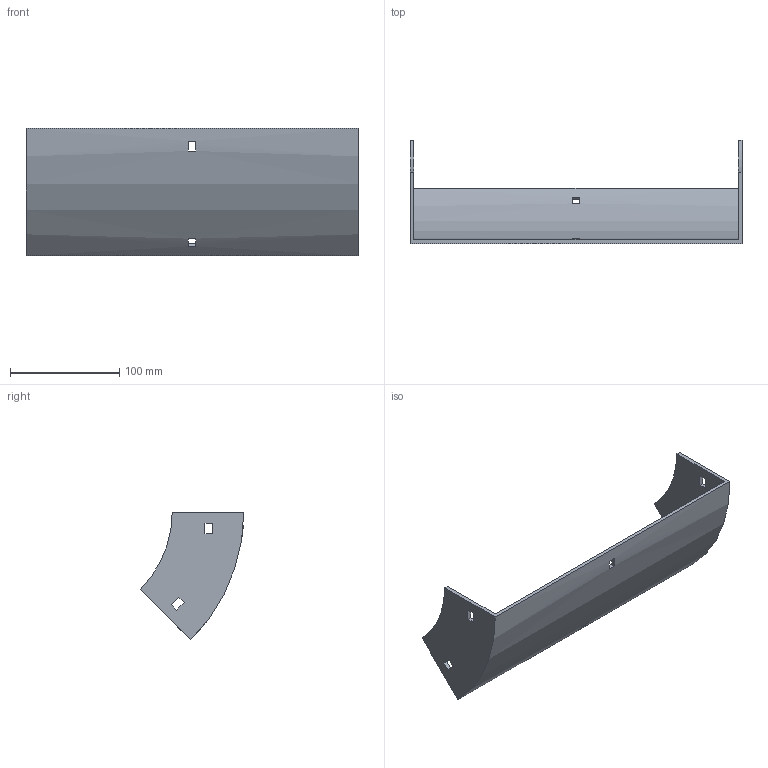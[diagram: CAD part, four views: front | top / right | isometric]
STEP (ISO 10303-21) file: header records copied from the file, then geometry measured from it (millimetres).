
FILE_DESCRIPTION (( 'STEP AP214' ), '1' );
FILE_NAME ('31B1H300.step', '2025-02-21T09:47:15', ( '' ), ( '' ), 'SwSTEP 2.0', 'SolidWorks 2023', '' );
FILE_SCHEMA (( 'AUTOMOTIVE_DESIGN' ));
Length unit declared in the file: millimetre
Products named in the file (1): 31B1H300
Bounding box: 304 x 94.79 x 117.03 mm (x, y, z)
Volume: 180101.3 mm3; surface area: 107164.6 mm2
Topology: 1 solids, 1 shells, 34 faces, 96 edges, 64 vertices
Faces by surface type: plane 30, cylinder 4
Entity records: 1143 total; most frequent: CARTESIAN_POINT 195, ORIENTED_EDGE 192, DIRECTION 182, EDGE_CURVE 96, VECTOR 80, LINE 80, VERTEX_POINT 64, AXIS2_PLACEMENT_3D 51
